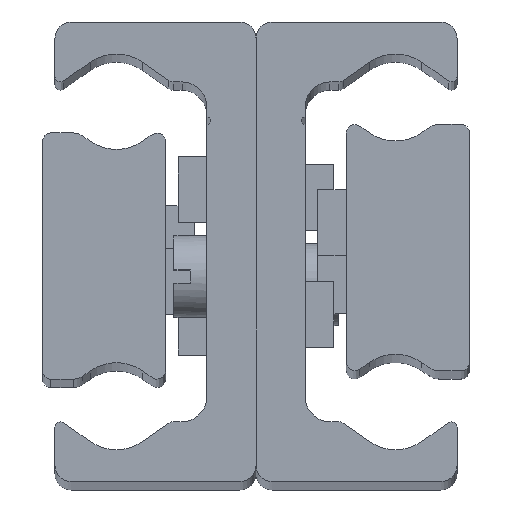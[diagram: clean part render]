
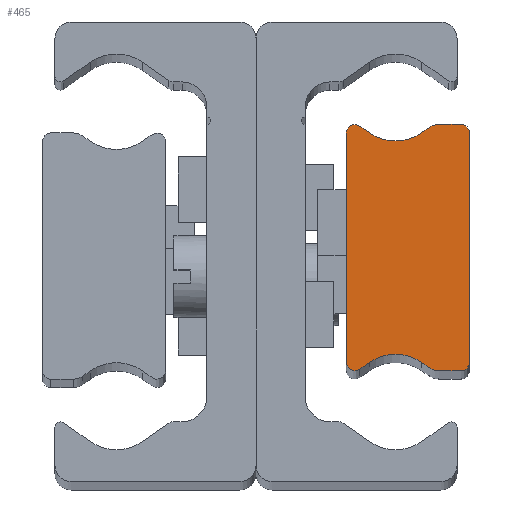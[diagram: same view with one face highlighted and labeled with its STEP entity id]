
A CAD part, top view. The second image highlights one B-rep face of the part: STEP entity #465.
In plain terms, the highlighted planar face has unit normal (0, 0, 1) as drawn and (0, 0, -1) by its records, which use the part's own axes.
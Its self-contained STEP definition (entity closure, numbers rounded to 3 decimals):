
#465 = ADVANCED_FACE( '', ( #935 ), #936, .F. );
#935 = FACE_OUTER_BOUND( '', #1381, .T. );
#936 = PLANE( '', #1382 );
#1381 = EDGE_LOOP( '', ( #2445, #2446, #2447, #2448, #2449, #2450, #2451, #2452, #2453, #2454, #2455, #2456, #2457, #2458, #2459, #2460 ) );
#1382 = AXIS2_PLACEMENT_3D( '', #2461, #2462, #2463 );
#2445 = ORIENTED_EDGE( '', *, *, #2905, .F. );
#2446 = ORIENTED_EDGE( '', *, *, #2851, .F. );
#2447 = ORIENTED_EDGE( '', *, *, #2753, .F. );
#2448 = ORIENTED_EDGE( '', *, *, #2866, .F. );
#2449 = ORIENTED_EDGE( '', *, *, #2719, .F. );
#2450 = ORIENTED_EDGE( '', *, *, #2632, .T. );
#2451 = ORIENTED_EDGE( '', *, *, #2846, .F. );
#2452 = ORIENTED_EDGE( '', *, *, #2523, .F. );
#2453 = ORIENTED_EDGE( '', *, *, #2855, .F. );
#2454 = ORIENTED_EDGE( '', *, *, #2693, .F. );
#2455 = ORIENTED_EDGE( '', *, *, #2857, .F. );
#2456 = ORIENTED_EDGE( '', *, *, #2697, .T. );
#2457 = ORIENTED_EDGE( '', *, *, #2566, .F. );
#2458 = ORIENTED_EDGE( '', *, *, #2828, .F. );
#2459 = ORIENTED_EDGE( '', *, *, #2642, .F. );
#2460 = ORIENTED_EDGE( '', *, *, #2888, .F. );
#2461 = CARTESIAN_POINT( '', ( 0.5, -7., -290. ) );
#2462 = DIRECTION( '', ( 0., 0., 1. ) );
#2463 = DIRECTION( '', ( 1., 0., 0. ) );
#2523 = EDGE_CURVE( '', #2963, #2965, #2966, .T. );
#2566 = EDGE_CURVE( '', #3037, #3039, #3040, .T. );
#2632 = EDGE_CURVE( '', #3145, #3143, #3146, .T. );
#2642 = EDGE_CURVE( '', #3161, #3163, #3164, .T. );
#2693 = EDGE_CURVE( '', #3245, #3247, #3248, .T. );
#2697 = EDGE_CURVE( '', #3253, #3039, #3254, .T. );
#2719 = EDGE_CURVE( '', #3145, #3287, #3288, .T. );
#2753 = EDGE_CURVE( '', #3331, #3333, #3334, .T. );
#2828 = EDGE_CURVE( '', #3163, #3037, #3443, .T. );
#2846 = EDGE_CURVE( '', #2965, #3143, #3466, .T. );
#2851 = EDGE_CURVE( '', #3333, #3472, #3473, .T. );
#2855 = EDGE_CURVE( '', #3247, #2963, #3477, .T. );
#2857 = EDGE_CURVE( '', #3253, #3245, #3479, .T. );
#2866 = EDGE_CURVE( '', #3287, #3331, #3490, .T. );
#2888 = EDGE_CURVE( '', #3515, #3161, #3517, .T. );
#2905 = EDGE_CURVE( '', #3472, #3515, #3534, .T. );
#2963 = VERTEX_POINT( '', #3607 );
#2965 = VERTEX_POINT( '', #3610 );
#2966 = CIRCLE( '', #3611, 0.523 );
#3037 = VERTEX_POINT( '', #3701 );
#3039 = VERTEX_POINT( '', #3704 );
#3040 = LINE( '', #3705, #3706 );
#3143 = VERTEX_POINT( '', #3844 );
#3145 = VERTEX_POINT( '', #3847 );
#3146 = CIRCLE( '', #3848, 2.778 );
#3161 = VERTEX_POINT( '', #3869 );
#3163 = VERTEX_POINT( '', #3872 );
#3164 = LINE( '', #3873, #3874 );
#3245 = VERTEX_POINT( '', #3981 );
#3247 = VERTEX_POINT( '', #3984 );
#3248 = CIRCLE( '', #3985, 0.523 );
#3253 = VERTEX_POINT( '', #3991 );
#3254 = CIRCLE( '', #3992, 2.778 );
#3287 = VERTEX_POINT( '', #4037 );
#3288 = LINE( '', #4038, #4039 );
#3331 = VERTEX_POINT( '', #4092 );
#3333 = VERTEX_POINT( '', #4095 );
#3334 = LINE( '', #4096, #4097 );
#3443 = CIRCLE( '', #4245, 1. );
#3466 = LINE( '', #4273, #4274 );
#3472 = VERTEX_POINT( '', #4280 );
#3473 = CIRCLE( '', #4281, 0.5 );
#3477 = LINE( '', #4287, #4288 );
#3479 = LINE( '', #4290, #4291 );
#3490 = CIRCLE( '', #4302, 1. );
#3515 = VERTEX_POINT( '', #4335 );
#3517 = CIRCLE( '', #4338, 0.5 );
#3534 = LINE( '', #4357, #4358 );
#3607 = CARTESIAN_POINT( '', ( 7.5, 6.977, -290. ) );
#3610 = CARTESIAN_POINT( '', ( 6.677, 7.405, -290. ) );
#3611 = AXIS2_PLACEMENT_3D( '', #4401, #4402, #4403 );
#3701 = CARTESIAN_POINT( '', ( 2.446, -7.319, -290. ) );
#3704 = CARTESIAN_POINT( '', ( 2.907, -6.997, -290. ) );
#3705 = CARTESIAN_POINT( '', ( 2.446, -7.319, -290. ) );
#3706 = VECTOR( '', #4460, 1000. );
#3844 = CARTESIAN_POINT( '', ( 6.093, 6.997, -290. ) );
#3847 = CARTESIAN_POINT( '', ( 2.907, 6.997, -290. ) );
#3848 = AXIS2_PLACEMENT_3D( '', #4536, #4537, #4538 );
#3869 = CARTESIAN_POINT( '', ( 0.5, -7.5, -290. ) );
#3872 = CARTESIAN_POINT( '', ( 1.873, -7.5, -290. ) );
#3873 = CARTESIAN_POINT( '', ( 0.5, -7.5, -290. ) );
#3874 = VECTOR( '', #4546, 1000. );
#3981 = CARTESIAN_POINT( '', ( 6.677, -7.405, -290. ) );
#3984 = CARTESIAN_POINT( '', ( 7.5, -6.977, -290. ) );
#3985 = AXIS2_PLACEMENT_3D( '', #4604, #4605, #4606 );
#3991 = CARTESIAN_POINT( '', ( 6.093, -6.997, -290. ) );
#3992 = AXIS2_PLACEMENT_3D( '', #4611, #4612, #4613 );
#4037 = CARTESIAN_POINT( '', ( 2.446, 7.319, -290. ) );
#4038 = CARTESIAN_POINT( '', ( 2.907, 6.997, -290. ) );
#4039 = VECTOR( '', #4635, 1000. );
#4092 = CARTESIAN_POINT( '', ( 1.873, 7.5, -290. ) );
#4095 = CARTESIAN_POINT( '', ( 0.5, 7.5, -290. ) );
#4096 = CARTESIAN_POINT( '', ( 1.873, 7.5, -290. ) );
#4097 = VECTOR( '', #4686, 1000. );
#4245 = AXIS2_PLACEMENT_3D( '', #4771, #4772, #4773 );
#4273 = CARTESIAN_POINT( '', ( 6.677, 7.405, -290. ) );
#4274 = VECTOR( '', #4794, 1000. );
#4280 = CARTESIAN_POINT( '', ( 0., 7., -290. ) );
#4281 = AXIS2_PLACEMENT_3D( '', #4798, #4799, #4800 );
#4287 = CARTESIAN_POINT( '', ( 7.5, -6.977, -290. ) );
#4288 = VECTOR( '', #4803, 1000. );
#4290 = CARTESIAN_POINT( '', ( 6.093, -6.997, -290. ) );
#4291 = VECTOR( '', #4804, 1000. );
#4302 = AXIS2_PLACEMENT_3D( '', #4817, #4818, #4819 );
#4335 = CARTESIAN_POINT( '', ( 0., -7., -290. ) );
#4338 = AXIS2_PLACEMENT_3D( '', #4847, #4848, #4849 );
#4357 = CARTESIAN_POINT( '', ( 0., 7., -290. ) );
#4358 = VECTOR( '', #4858, 1000. );
#4401 = CARTESIAN_POINT( '', ( 6.977, 6.977, -290. ) );
#4402 = DIRECTION( '', ( 0., 0., 1. ) );
#4403 = DIRECTION( '', ( 1., 0., 0. ) );
#4460 = DIRECTION( '', ( 0.819, 0.574, 0. ) );
#4536 = CARTESIAN_POINT( '', ( 4.5, 9.272, -290. ) );
#4537 = DIRECTION( '', ( 0., 0., 1. ) );
#4538 = DIRECTION( '', ( 1., 0., 0. ) );
#4546 = DIRECTION( '', ( 1., 0., 0. ) );
#4604 = CARTESIAN_POINT( '', ( 6.977, -6.977, -290. ) );
#4605 = DIRECTION( '', ( 0., 0., 1. ) );
#4606 = DIRECTION( '', ( 1., 0., 0. ) );
#4611 = CARTESIAN_POINT( '', ( 4.5, -9.272, -290. ) );
#4612 = DIRECTION( '', ( 0., 0., 1. ) );
#4613 = DIRECTION( '', ( 1., 0., 0. ) );
#4635 = DIRECTION( '', ( -0.819, 0.574, 0. ) );
#4686 = DIRECTION( '', ( -1., 0., 0. ) );
#4771 = CARTESIAN_POINT( '', ( 1.873, -6.5, -290. ) );
#4772 = DIRECTION( '', ( 0., 0., 1. ) );
#4773 = DIRECTION( '', ( 1., 0., 0. ) );
#4794 = DIRECTION( '', ( -0.819, -0.574, 0. ) );
#4798 = CARTESIAN_POINT( '', ( 0.5, 7., -290. ) );
#4799 = DIRECTION( '', ( 0., 0., 1. ) );
#4800 = DIRECTION( '', ( 1., 0., 0. ) );
#4803 = DIRECTION( '', ( 0., 1., 0. ) );
#4804 = DIRECTION( '', ( 0.819, -0.574, 0. ) );
#4817 = CARTESIAN_POINT( '', ( 1.873, 6.5, -290. ) );
#4818 = DIRECTION( '', ( 0., 0., 1. ) );
#4819 = DIRECTION( '', ( 1., 0., 0. ) );
#4847 = CARTESIAN_POINT( '', ( 0.5, -7., -290. ) );
#4848 = DIRECTION( '', ( 0., 0., 1. ) );
#4849 = DIRECTION( '', ( 1., 0., 0. ) );
#4858 = DIRECTION( '', ( 0., -1., 0. ) );
